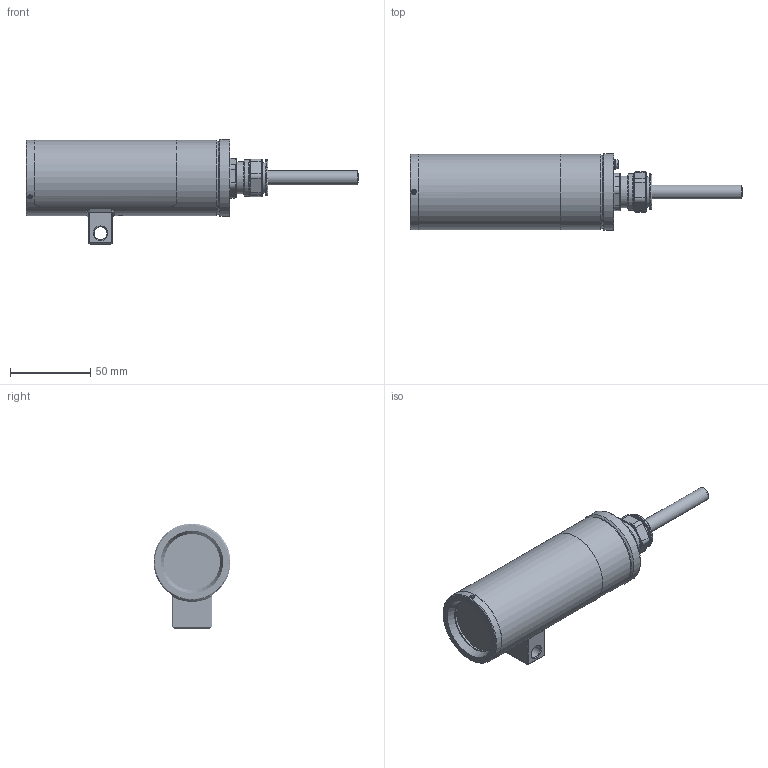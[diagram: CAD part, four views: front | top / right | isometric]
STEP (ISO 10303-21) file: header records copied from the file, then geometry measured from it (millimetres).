
FILE_DESCRIPTION(/* description */ (''),/* implementation_level */ '2;1');
FILE_NAME(/* name */ 'C:\Users\Sebastian Weber\Desktop\ExCam SUFA4115 - T08-VA0.1.K1.BOR-N.N-005.N-P_rev.00.stp',/* time_stamp */ '2021-01-29T16:23:00+01:00',/* author */ ('Sebastian Weber'),/* organization */ (''),/* preprocessor_version */ 'ST-DEVELOPER v17',/* originating_system */ 'Autodesk Inventor 2019',/* authorisation */ '');
FILE_SCHEMA (('CONFIG_CONTROL_DESIGN'));
Products named in the file (35): ExCam XF FA4115 - T08-VA0.1.K1.BOR-N.N-012.N-P_rev.00; T07_VA0.1.K1.BOR_rev.00_vers.03; T07_VA0.1.R_mit Nocke_rev.00; T07_VA0.1.R_mit Nocke_rev.00_1; T07_VA0.4.R_bare_(BAU)_rev.02; VA1.2.R_Nocke (M8)_rev.00; T07_VA0.x.K1_bare_rev.00; T07_VA0.x Gylon Dichtung_rev.00; T07_VA0.x.BOR_compound; Silikonpufferring_rev.03; Silikonpassring_rev.01; Borosilikatglas DIN 7080-1_40x12; T07_VA0.x.BOR_Passring_bare_rev.05; Erdungsschraube_VA0.x; DIN 84 - M3 x 4; DIN 433 - 3,2; VA0.x Gehäuseschraubengarnitur; ISO 4762  - M3 x 10; DIN 128 - A3; DIN 913 - M3 x 3; ISO 7380-1 - M3 x 6; ExCam XF FA4115_Vibrationsentkoppler_rev.03; KLE ADE 1F Typ5 M20; KLE ADE 1F Typ5 M20_1; KLE Gummieinsatz M20; SKD04-T.flex; AXIS_FA4115_sensor unit; AXIS_FA4115_housing; 1470758_M6; AXIS_FA4115_sensor PCB; IS 7483 - M2 x 6; ExCam XF FA4115_VA0.1_Montageadapter_rev.06; zx64-b-5s-unit_31_; STP390300080; Typenschild_ExCam SUFA4115_T08-VA0.1.K1.BOR-N.N-005.N-x
Assembly tree (46 placements, depth 4):
  ExCam XF FA4115 - T08-VA0.1.K1.BOR-N.N-012.N-P_rev.00
    T07_VA0.1.K1.BOR_rev.00_vers.03
      T07_VA0.1.R_mit Nocke_rev.00
        T07_VA0.1.R_mit Nocke_rev.00_1
        T07_VA0.4.R_bare_(BAU)_rev.02
        VA1.2.R_Nocke (M8)_rev.00
      T07_VA0.x.K1_bare_rev.00
      T07_VA0.x Gylon Dichtung_rev.00
      T07_VA0.x.BOR_compound
      Silikonpufferring_rev.03
      Silikonpassring_rev.01
      Borosilikatglas DIN 7080-1_40x12
      T07_VA0.x.BOR_Passring_bare_rev.05
      Erdungsschraube_VA0.x
        DIN 84 - M3 x 4
        DIN 128 - A3
        DIN 433 - 3,2
      VA0.x Gehäuseschraubengarnitur  x6
        ISO 4762  - M3 x 10
        DIN 128 - A3
      DIN 913 - M3 x 3  x3
    ISO 7380-1 - M3 x 6  x3
    ExCam XF FA4115_Vibrationsentkoppler_rev.03
    KLE ADE 1F Typ5 M20
      KLE ADE 1F Typ5 M20_1
      KLE Gummieinsatz M20
    SKD04-T.flex
    AXIS_FA4115_sensor unit
      AXIS_FA4115_housing
      1470758_M6
      AXIS_FA4115_sensor PCB
    IS 7483 - M2 x 6  x2
    ExCam XF FA4115_VA0.1_Montageadapter_rev.06
    zx64-b-5s-unit_31_
    STP390300080  x2
    Typenschild_ExCam SUFA4115_T08-VA0.1.K1.BOR-N.N-005.N-x
Bounding box: 207.1 x 48 x 65.5 mm (x, y, z)
Volume: 119151 mm3; surface area: 114597 mm2
Topology: 62 solids, 70 shells, 3759 faces, 9921 edges, 6532 vertices
Faces by surface type: plane 1632, bspline 901, cylinder 812, cone 232, torus 172, sphere 10
Full cylindrical faces by diameter (mm): 0.643 x32, 0.9 x2, 1 x5, 1.1 x3, 1.567 x2, 1.6 x3, 1.783 x2, 2 x12, 2.09 x10, 2.2 x2, 2.341 x2, 2.4 x2, 2.459 x16, 2.5 x14, 2.729 x1, 2.8 x3, 2.94 x2, 3 x13, 3.2 x6, 3.4 x6, 4.2 x1, 5.25 x2, 5.3 x2, 5.5 x6, 5.7 x3, 6 x1, 6.2 x1, 6.5 x6, 6.7 x1, 7.5 x1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
Entity records: 137149 total; most frequent: CARTESIAN_POINT 52608, ORIENTED_EDGE 18202, DIRECTION 14864, EDGE_CURVE 9101, VERTEX_POINT 5995, AXIS2_PLACEMENT_3D 5140, LINE 4584, VECTOR 4584
